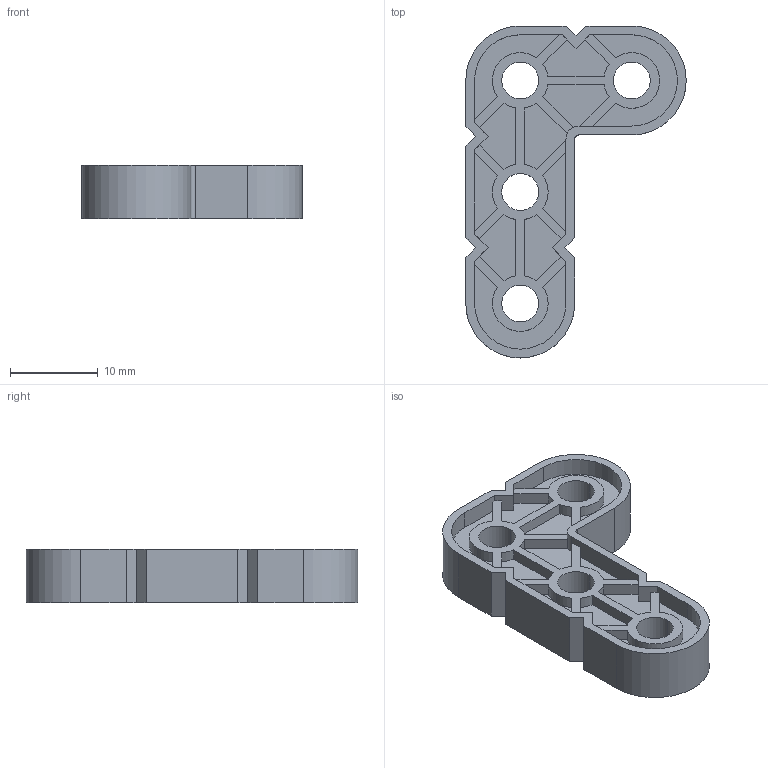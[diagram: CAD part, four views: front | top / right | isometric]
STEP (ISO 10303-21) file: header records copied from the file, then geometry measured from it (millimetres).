
FILE_DESCRIPTION (( 'STEP AP214' ), '1' );
FILE_NAME ('228-2500-145.STEP', '2021-02-18T19:51:15', ( '' ), ( '' ), 'SwSTEP 2.0', 'SolidWorks 2019', '' );
FILE_SCHEMA (( 'AUTOMOTIVE_DESIGN' ));
Length unit declared in the file: millimetre
Products named in the file (1): 228-2500-145
Bounding box: 25.1 x 37.8 x 6.1 mm (x, y, z)
Volume: 1861.1 mm3; surface area: 2908.1 mm2
Topology: 1 solids, 1 shells, 192 faces, 564 edges, 376 vertices
Faces by surface type: plane 130, cylinder 62
Entity records: 6426 total; most frequent: CARTESIAN_POINT 1133, ORIENTED_EDGE 1128, DIRECTION 1078, EDGE_CURVE 564, VECTOR 436, LINE 436, VERTEX_POINT 376, AXIS2_PLACEMENT_3D 321
